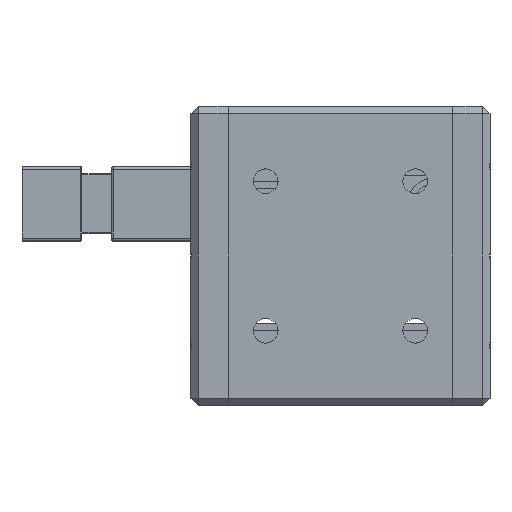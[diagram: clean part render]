
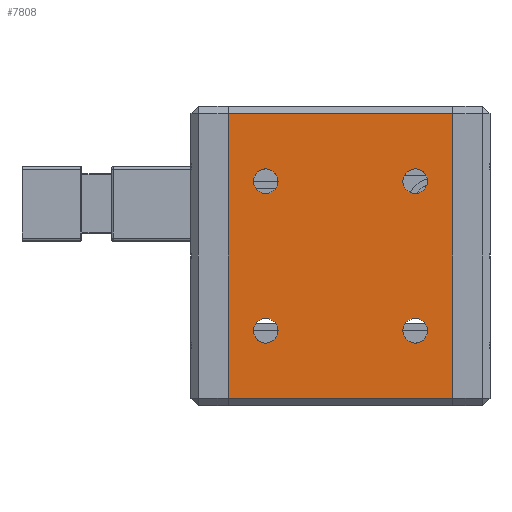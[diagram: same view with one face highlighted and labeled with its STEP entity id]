
A CAD part, front view. The second image highlights one B-rep face of the part: STEP entity #7808.
In plain terms, the highlighted planar face has unit normal (0, -1, 0).
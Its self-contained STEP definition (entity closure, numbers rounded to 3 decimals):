
#102 = DIRECTION ( 'NONE',  ( 0., 0., -1. ) ) ;
#193 = DIRECTION ( 'NONE',  ( -1., 0., 0. ) ) ;
#243 = DIRECTION ( 'NONE',  ( 0., -1., 0. ) ) ;
#436 = EDGE_CURVE ( 'NONE', #2073, #1136, #11722, .T. ) ;
#479 = EDGE_LOOP ( 'NONE', ( #10121, #13622 ) ) ;
#507 = CARTESIAN_POINT ( 'NONE',  ( 32.5, -33.5, -19. ) ) ;
#1127 = DIRECTION ( 'NONE',  ( 1., 0., 0. ) ) ;
#1136 = VERTEX_POINT ( 'NONE', #11959 ) ;
#1520 = EDGE_LOOP ( 'NONE', ( #8015, #7267 ) ) ;
#2065 = CIRCLE ( 'NONE', #5573, 1.65 ) ;
#2073 = VERTEX_POINT ( 'NONE', #13492 ) ;
#2087 = FACE_OUTER_BOUND ( 'NONE', #5700, .T. ) ;
#2229 = DIRECTION ( 'NONE',  ( 0., -1., 0. ) ) ;
#2373 = DIRECTION ( 'NONE',  ( 1., 0., 0. ) ) ;
#2408 = CARTESIAN_POINT ( 'NONE',  ( 2.5, -33.5, -19. ) ) ;
#2426 = CARTESIAN_POINT ( 'NONE',  ( 32.5, -33.5, 19. ) ) ;
#2661 = EDGE_CURVE ( 'NONE', #12174, #4700, #4310, .T. ) ;
#2662 = EDGE_CURVE ( 'NONE', #4700, #12174, #2065, .T. ) ;
#2690 = LINE ( 'NONE', #4246, #5592 ) ;
#2716 = EDGE_CURVE ( 'NONE', #12281, #5815, #10386, .T. ) ;
#3085 = VERTEX_POINT ( 'NONE', #12645 ) ;
#3241 = CARTESIAN_POINT ( 'NONE',  ( 29.15, -33.5, 10. ) ) ;
#3329 = VECTOR ( 'NONE', #15072, 1000. ) ;
#3424 = CARTESIAN_POINT ( 'NONE',  ( 5.85, -33.5, 10. ) ) ;
#3443 = EDGE_CURVE ( 'NONE', #3085, #5607, #10428, .T. ) ;
#3556 = VECTOR ( 'NONE', #102, 1000. ) ;
#3808 = EDGE_CURVE ( 'NONE', #5607, #3085, #14719, .T. ) ;
#4000 = CARTESIAN_POINT ( 'NONE',  ( 32.5, -33.5, -19. ) ) ;
#4049 = VERTEX_POINT ( 'NONE', #4000 ) ;
#4246 = CARTESIAN_POINT ( 'NONE',  ( 32.5, -33.5, 19. ) ) ;
#4310 = CIRCLE ( 'NONE', #8606, 1.65 ) ;
#4700 = VERTEX_POINT ( 'NONE', #11960 ) ;
#4963 = ORIENTED_EDGE ( 'NONE', *, *, #2716, .T. ) ;
#5006 = CARTESIAN_POINT ( 'NONE',  ( 2.5, -33.5, 19. ) ) ;
#5482 = CARTESIAN_POINT ( 'NONE',  ( 27.5, -33.5, -10. ) ) ;
#5573 = AXIS2_PLACEMENT_3D ( 'NONE', #6584, #13785, #10067 ) ;
#5592 = VECTOR ( 'NONE', #9071, 1000. ) ;
#5607 = VERTEX_POINT ( 'NONE', #12685 ) ;
#5700 = EDGE_LOOP ( 'NONE', ( #4963, #7570, #9813, #9819 ) ) ;
#5815 = VERTEX_POINT ( 'NONE', #2408 ) ;
#5841 = CARTESIAN_POINT ( 'NONE',  ( 7.5, -33.5, -10. ) ) ;
#6554 = EDGE_CURVE ( 'NONE', #8812, #4049, #11612, .T. ) ;
#6584 = CARTESIAN_POINT ( 'NONE',  ( 27.5, -33.5, 10. ) ) ;
#6728 = FACE_BOUND ( 'NONE', #15019, .T. ) ;
#6762 = DIRECTION ( 'NONE',  ( 0., -1., 0. ) ) ;
#6924 = ORIENTED_EDGE ( 'NONE', *, *, #2661, .F. ) ;
#7267 = ORIENTED_EDGE ( 'NONE', *, *, #9615, .F. ) ;
#7570 = ORIENTED_EDGE ( 'NONE', *, *, #14366, .F. ) ;
#7721 = CARTESIAN_POINT ( 'NONE',  ( 27.5, -33.5, -10. ) ) ;
#7808 = ADVANCED_FACE ( 'NONE', ( #13923, #9259, #15258, #6728, #2087 ), #14078, .F. ) ;
#7929 = VERTEX_POINT ( 'NONE', #9554 ) ;
#8015 = ORIENTED_EDGE ( 'NONE', *, *, #9510, .F. ) ;
#8248 = ORIENTED_EDGE ( 'NONE', *, *, #2662, .F. ) ;
#8606 = AXIS2_PLACEMENT_3D ( 'NONE', #11267, #10232, #12605 ) ;
#8812 = VERTEX_POINT ( 'NONE', #2426 ) ;
#9024 = DIRECTION ( 'NONE',  ( 0., 1., 0. ) ) ;
#9071 = DIRECTION ( 'NONE',  ( -1., 0., 0. ) ) ;
#9183 = CARTESIAN_POINT ( 'NONE',  ( 32.5, -33.5, -19. ) ) ;
#9259 = FACE_BOUND ( 'NONE', #10678, .T. ) ;
#9510 = EDGE_CURVE ( 'NONE', #7929, #14326, #13917, .T. ) ;
#9554 = CARTESIAN_POINT ( 'NONE',  ( 9.15, -33.5, 10. ) ) ;
#9615 = EDGE_CURVE ( 'NONE', #14326, #7929, #10851, .T. ) ;
#9813 = ORIENTED_EDGE ( 'NONE', *, *, #6554, .F. ) ;
#9819 = ORIENTED_EDGE ( 'NONE', *, *, #14870, .T. ) ;
#9946 = CARTESIAN_POINT ( 'NONE',  ( 7.5, -33.5, -10. ) ) ;
#10067 = DIRECTION ( 'NONE',  ( 1., 0., 0. ) ) ;
#10121 = ORIENTED_EDGE ( 'NONE', *, *, #14798, .F. ) ;
#10232 = DIRECTION ( 'NONE',  ( 0., -1., 0. ) ) ;
#10234 = DIRECTION ( 'NONE',  ( 1., 0., 0. ) ) ;
#10269 = CARTESIAN_POINT ( 'NONE',  ( 32.5, -33.5, -19. ) ) ;
#10386 = LINE ( 'NONE', #10901, #3556 ) ;
#10428 = CIRCLE ( 'NONE', #11941, 1.65 ) ;
#10678 = EDGE_LOOP ( 'NONE', ( #13990, #13984 ) ) ;
#10851 = CIRCLE ( 'NONE', #14889, 1.65 ) ;
#10901 = CARTESIAN_POINT ( 'NONE',  ( 2.5, -33.5, -19. ) ) ;
#10949 = AXIS2_PLACEMENT_3D ( 'NONE', #5841, #2229, #1127 ) ;
#10995 = LINE ( 'NONE', #507, #11963 ) ;
#11131 = DIRECTION ( 'NONE',  ( 1., 0., 0. ) ) ;
#11267 = CARTESIAN_POINT ( 'NONE',  ( 27.5, -33.5, 10. ) ) ;
#11360 = DIRECTION ( 'NONE',  ( 1., 0., 0. ) ) ;
#11612 = LINE ( 'NONE', #10269, #3329 ) ;
#11722 = CIRCLE ( 'NONE', #10949, 1.65 ) ;
#11929 = CARTESIAN_POINT ( 'NONE',  ( 7.5, -33.5, 10. ) ) ;
#11941 = AXIS2_PLACEMENT_3D ( 'NONE', #7721, #6762, #11360 ) ;
#11959 = CARTESIAN_POINT ( 'NONE',  ( 9.15, -33.5, -10. ) ) ;
#11960 = CARTESIAN_POINT ( 'NONE',  ( 25.85, -33.5, 10. ) ) ;
#11963 = VECTOR ( 'NONE', #193, 1000. ) ;
#12174 = VERTEX_POINT ( 'NONE', #3241 ) ;
#12281 = VERTEX_POINT ( 'NONE', #5006 ) ;
#12483 = DIRECTION ( 'NONE',  ( 0., -1., 0. ) ) ;
#12605 = DIRECTION ( 'NONE',  ( 1., 0., 0. ) ) ;
#12645 = CARTESIAN_POINT ( 'NONE',  ( 25.85, -33.5, -10. ) ) ;
#12685 = CARTESIAN_POINT ( 'NONE',  ( 29.15, -33.5, -10. ) ) ;
#12899 = DIRECTION ( 'NONE',  ( -1., 0., 0. ) ) ;
#13185 = DIRECTION ( 'NONE',  ( 0., -1., 0. ) ) ;
#13416 = CARTESIAN_POINT ( 'NONE',  ( 7.5, -33.5, 10. ) ) ;
#13423 = AXIS2_PLACEMENT_3D ( 'NONE', #9946, #12483, #14760 ) ;
#13492 = CARTESIAN_POINT ( 'NONE',  ( 5.85, -33.5, -10. ) ) ;
#13622 = ORIENTED_EDGE ( 'NONE', *, *, #436, .F. ) ;
#13785 = DIRECTION ( 'NONE',  ( 0., -1., 0. ) ) ;
#13917 = CIRCLE ( 'NONE', #15420, 1.65 ) ;
#13922 = CIRCLE ( 'NONE', #13423, 1.65 ) ;
#13923 = FACE_BOUND ( 'NONE', #479, .T. ) ;
#13984 = ORIENTED_EDGE ( 'NONE', *, *, #3443, .F. ) ;
#13990 = ORIENTED_EDGE ( 'NONE', *, *, #3808, .F. ) ;
#14078 = PLANE ( 'NONE',  #15123 ) ;
#14326 = VERTEX_POINT ( 'NONE', #3424 ) ;
#14366 = EDGE_CURVE ( 'NONE', #4049, #5815, #10995, .T. ) ;
#14719 = CIRCLE ( 'NONE', #14961, 1.65 ) ;
#14760 = DIRECTION ( 'NONE',  ( 1., 0., 0. ) ) ;
#14798 = EDGE_CURVE ( 'NONE', #1136, #2073, #13922, .T. ) ;
#14870 = EDGE_CURVE ( 'NONE', #8812, #12281, #2690, .T. ) ;
#14883 = DIRECTION ( 'NONE',  ( 0., -1., 0. ) ) ;
#14889 = AXIS2_PLACEMENT_3D ( 'NONE', #13416, #243, #11131 ) ;
#14961 = AXIS2_PLACEMENT_3D ( 'NONE', #5482, #14883, #10234 ) ;
#15019 = EDGE_LOOP ( 'NONE', ( #6924, #8248 ) ) ;
#15072 = DIRECTION ( 'NONE',  ( 0., 0., -1. ) ) ;
#15123 = AXIS2_PLACEMENT_3D ( 'NONE', #9183, #9024, #12899 ) ;
#15258 = FACE_BOUND ( 'NONE', #1520, .T. ) ;
#15420 = AXIS2_PLACEMENT_3D ( 'NONE', #11929, #13185, #2373 ) ;
